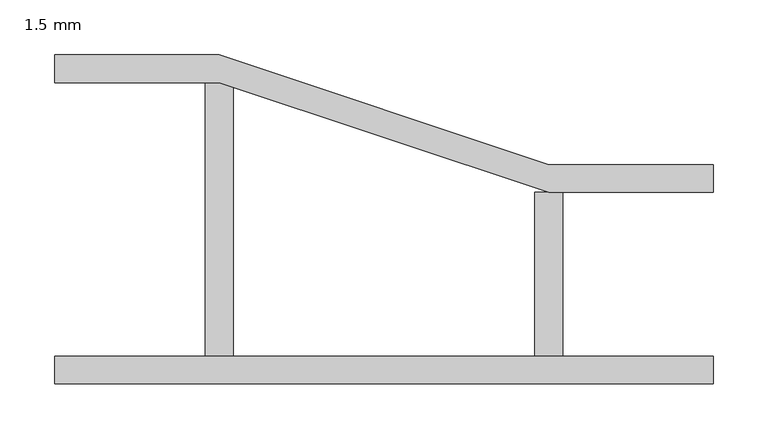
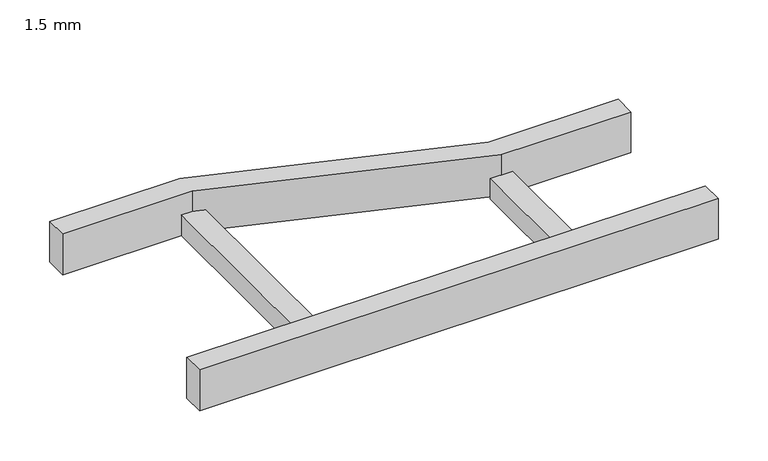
"""IFC4 building model written with IfcOpenShell, lengths in millimetres: cable carrier fitting geometry, BAKS_Redukcja_drabiny : 1.5 mm."""

from ifc_helpers import new_model, si_unit, frame, origin, place, context, project, spatial, polyline, outline, extrude, source, transform, mapped, element, save


def cable_carrier_fitting_1_5_mm_1f838bc7(model_context):
    return source(origin(), model_context, "Body", "SweptSolid", [
        extrude(outline(polyline([(0.0, -150.0), (0.0, -124.6), (600.0, -124.6), (600.0, -150.0), (0.0, -150.0)])), frame((0.0, 0.0, -25.0), z_axis=(0.0, 0.0, 1.0), x_axis=(1.0, 0.0, 0.0)), (0.0, 0.0, 1.0), 50.0),
        extrude(outline(polyline([(0.0, 124.6), (0.0, 150.0), (150.0, 150.0), (450.0, 50.0), (600.0, 50.0), (600.0, 24.6), (450.0, 24.6), (150.0, 124.6), (0.0, 124.6)])), frame((0.0, 0.0, -25.0), z_axis=(0.0, 0.0, 1.0), x_axis=(1.0, 0.0, 0.0)), (0.0, 0.0, 1.0), 50.0),
        extrude(outline(polyline([(437.3, 24.6), (462.7, 24.6), (462.7, -124.6), (437.3, -124.6), (437.3, 24.6)])), frame((0.0, 0.0, -25.0), z_axis=(0.0, 0.0, 1.0), x_axis=(1.0, 0.0, 0.0)), (0.0, 0.0, 1.0), 25.4),
        extrude(outline(polyline([(137.3, 124.6), (162.7, 124.6), (162.7, -124.6), (137.3, -124.6), (137.3, 124.6)])), frame((0.0, 0.0, -25.0), z_axis=(0.0, 0.0, 1.0), x_axis=(1.0, 0.0, 0.0)), (0.0, 0.0, 1.0), 25.4),
    ])


if __name__ == "__main__":
    model = new_model("IFC4")
    model_context = context("Model", 3, world=origin())
    ifc_project = project(units=[si_unit("LENGTHUNIT", "METRE", prefix="MILLI")], contexts=[model_context])
    site = spatial("IfcSite", under=ifc_project)
    building = spatial("IfcBuilding", under=site)
    placement = place(None, origin())
    cable_carrier_fitting_1_5_mm_shape = cable_carrier_fitting_1_5_mm_1f838bc7(model_context)
    element("IfcCableCarrierFitting", 1, ObjectType="BAKS_Redukcja_drabiny : 1.5 mm", at=placement, inside=building, context=model_context, shape_type="MappedRepresentation", body=[
        mapped(cable_carrier_fitting_1_5_mm_shape, transform((0.0, 0.0, 0.0), x_axis=(1.0, 0.0, 0.0), y_axis=(0.0, 1.0, 0.0), z_axis=(0.0, 0.0, 1.0))),
    ])
    save(model, "model.ifc")
